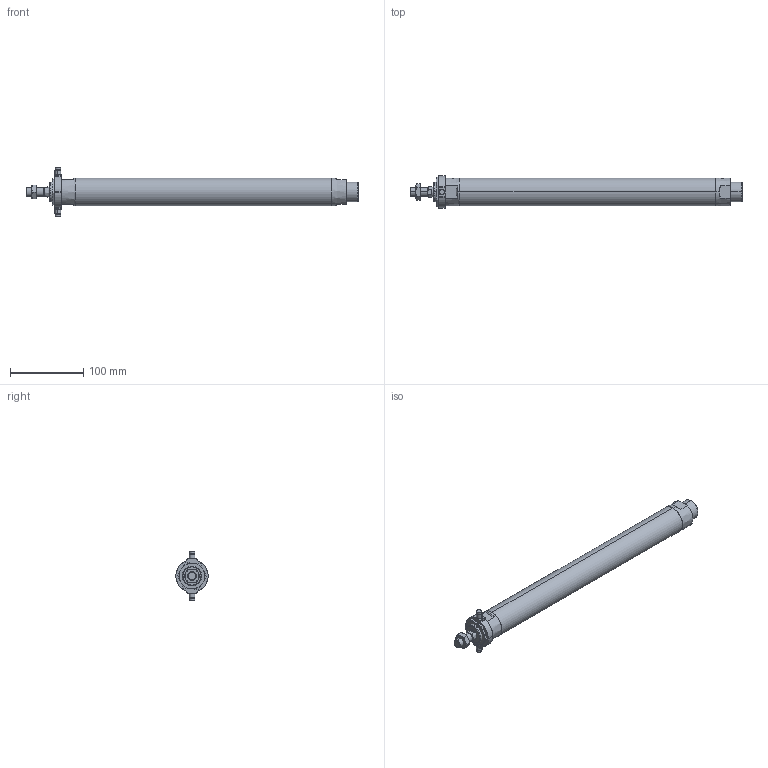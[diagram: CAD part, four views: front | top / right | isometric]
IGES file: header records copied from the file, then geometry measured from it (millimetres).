
Start section: SolidWorks IGES file using analytic representation for surfaces
Global section: file name: C:\Users\Toshiba\Desktop\J#2-32-300-T.IGS; native system: SolidWorks 2014; preprocessor: SolidWorks 2014; author: Toshiba; date: 160308.155235; units: millimetre
Bounding box: 453 x 44 x 66 mm (x, y, z)
Surface area: 60627.9 mm2 (no closed solid volume)
Topology: 0 solids, 0 shells, 133 faces, 2156 edges, 2152 vertices
Faces by surface type: bspline 67, revolution 66
